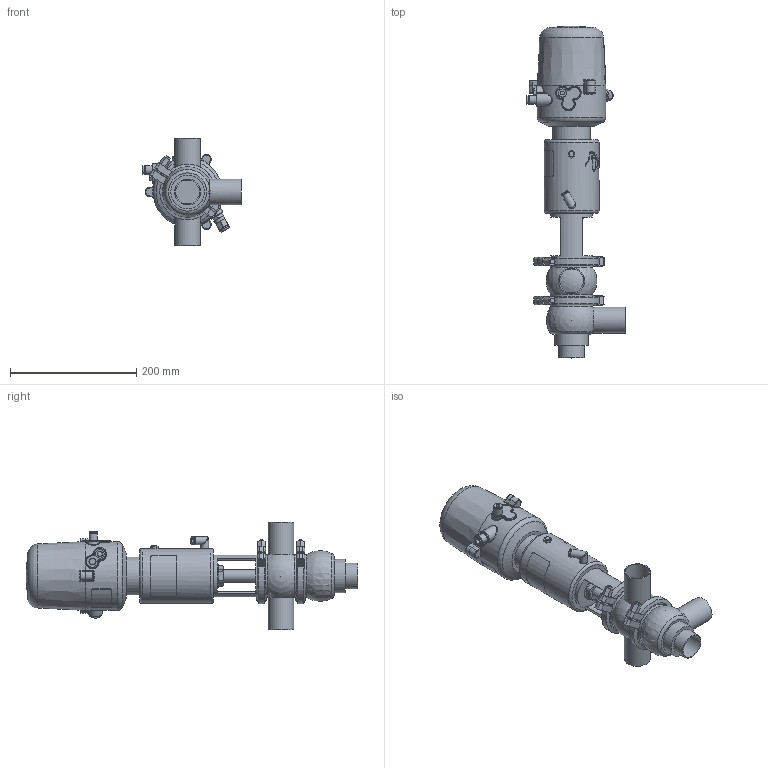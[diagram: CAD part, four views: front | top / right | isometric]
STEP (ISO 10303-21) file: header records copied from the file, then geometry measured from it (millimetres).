
FILE_DESCRIPTION (( 'STEP AP214' ), '1' );
FILE_NAME ('INNOVA K E W DIN 040 T1 AS NC & C-TOP S_10.240.16.0076.STEP', '2024-08-06T09:16:36', ( '' ), ( '' ), 'SwSTEP 2.0', 'SolidWorks 2023', '' );
FILE_SCHEMA (( 'AUTOMOTIVE_DESIGN' ));
Length unit declared in the file: millimetre
Products named in the file (8): 10.240.15.0010_DN 040; INNOVA K E W DIN 040 T1 AS NC & C-TOP S_10.240.16.0076; 10.240.15.0014_T1 AS P0; 10.240.15.0001_DN 040; 10.240.15.0017_Estàndard; 10.240.15.0007_DIN 040; 10.426.15.0001_C-TOP S - 1 EV; 10.240.15.0002_DIN 040
Assembly tree (8 placements, depth 2):
  INNOVA K E W DIN 040 T1 AS NC & C-TOP S_10.240.16.0076
    10.240.15.0007_DIN 040
    10.240.15.0002_DIN 040
    10.240.15.0010_DN 040
    10.240.15.0014_T1 AS P0
    10.240.15.0017_Estàndard
    10.426.15.0001_C-TOP S - 1 EV
    10.240.15.0001_DN 040  x2
Bounding box: 156 x 526 x 170 mm (x, y, z)
Volume: 2875560 mm3; surface area: 293411 mm2
Topology: 8 solids, 8 shells, 1177 faces, 2841 edges, 1892 vertices
Faces by surface type: plane 411, cylinder 358, cone 201, bspline 160, torus 38, sphere 9
Full cylindrical faces by diameter (mm): 0.371 x17, 0.512 x16, 0.658 x16, 0.795 x16, 0.94 x15, 1.098 x15, 1.241 x13, 1.382 x13, 1.523 x11, 1.669 x10, 2.201 x1, 4 x2, 5.5 x2, 6 x2, 6.15 x1, 8 x6, 8.5 x1, 10 x1, 10.5 x1, 11 x2, 12.5 x3, 13 x2, 13.5 x2, 16 x1, 17 x3, 20 x3, 20.5 x1, 22 x2, 31 x1, 34.5 x3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
Entity records: 57069 total; most frequent: CARTESIAN_POINT 26785, ORIENTED_EDGE 4522, DIRECTION 3667, EDGE_CURVE 2261, VERTEX_POINT 1610, EDGE_LOOP 1579, AXIS2_PLACEMENT_3D 1505, FACE_OUTER_BOUND 1338
